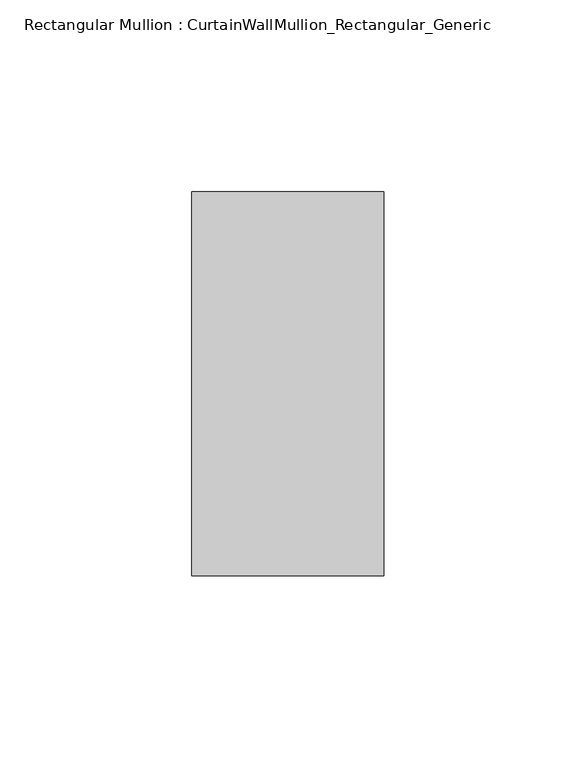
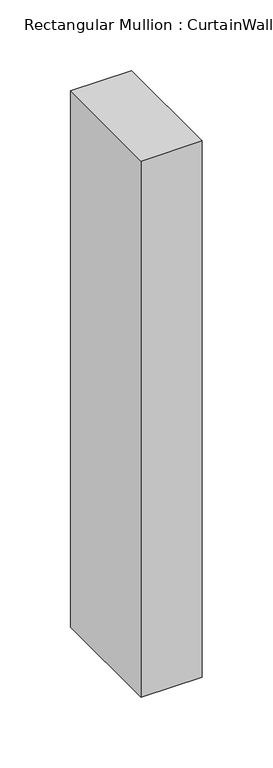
"""IFC4 building model written with IfcOpenShell, lengths in millimetres: member geometry, Rectangular Mullion : CurtainWallMullion_Rectangular_Generic."""

from ifc_helpers import new_model, si_unit, frame, origin, place, context, project, spatial, polyline, outline, extrude, source, transform, mapped, element, save


def rectangular_mullion_curtainwallmullion_rectangular_generic_15c16c91(model_context):
    return source(origin(), model_context, "Body", "SweptSolid", [
        extrude(outline(polyline([(0.0, 50.0), (0.0, -50.0), (-50.0, -50.0), (-50.0, 50.0), (0.0, 50.0)])), frame((0.0, 0.0, -463.3), z_axis=(0.0, 0.0, 1.0), x_axis=(1.0, 0.0, 0.0)), (0.0, 0.0, 1.0), 463.3),
    ])


if __name__ == "__main__":
    model = new_model("IFC4")
    model_context = context("Model", 3, world=origin())
    ifc_project = project(units=[si_unit("LENGTHUNIT", "METRE", prefix="MILLI")], contexts=[model_context])
    site = spatial("IfcSite", under=ifc_project)
    building = spatial("IfcBuilding", under=site)
    placement = place(None, origin())
    rectangular_mullion_curtainwallmullion_rectangular_generic_shape = rectangular_mullion_curtainwallmullion_rectangular_generic_15c16c91(model_context)
    element("IfcMember", 1, ObjectType="Rectangular Mullion : CurtainWallMullion_Rectangular_Generic", at=placement, inside=building, context=model_context, shape_type="MappedRepresentation", body=[
        mapped(rectangular_mullion_curtainwallmullion_rectangular_generic_shape, transform((0.0, 0.0, 0.0), x_axis=(1.0, 0.0, 0.0), y_axis=(0.0, 1.0, 0.0), z_axis=(0.0, 0.0, 1.0))),
    ])
    save(model, "model.ifc")
